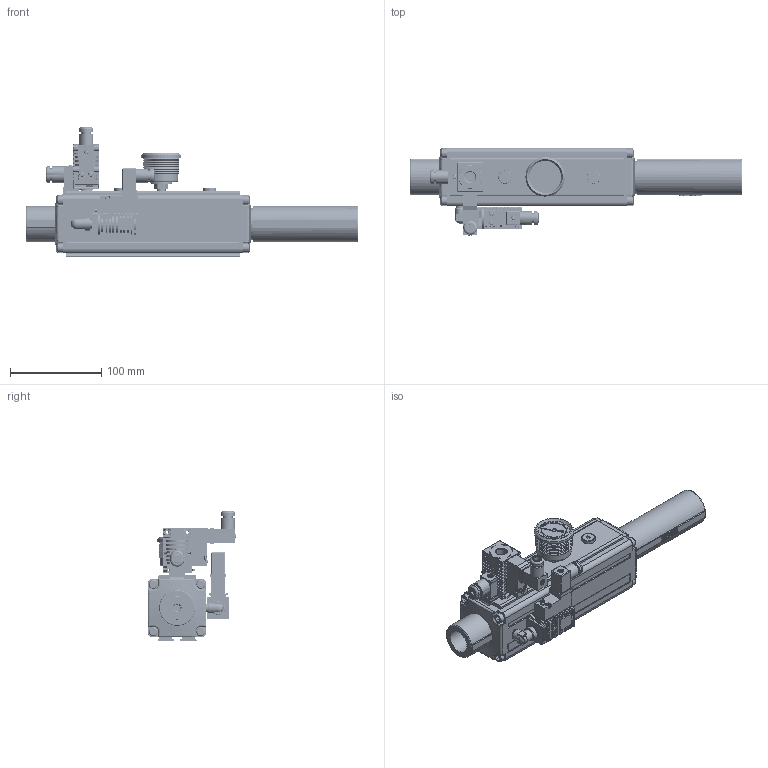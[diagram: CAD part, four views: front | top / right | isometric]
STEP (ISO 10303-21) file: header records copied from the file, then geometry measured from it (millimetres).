
FILE_DESCRIPTION( ( 'Unknown' ), '1' );
FILE_NAME( 'C:/Documents and Settings/Administrator/官帕 拳搁/PM 犁荐沥/PM303X1A-01-A3 R3-DL.stp', 'Unknown', ( 'Unknown' ), ( 'Unknown' ), 'PSStep 10.0', 'Unknown', ' ' );
FILE_SCHEMA( ( 'AUTOMOTIVE_DESIGN { 1 0 10303 214 1 1 1 1 }' ) );
Length unit declared in the file: millimetre
Products named in the file (7): Assem1; 1_0_40; VTS-01_48; VMS14_DIN_PT14_10; MS18 DIN; Vacuum Gauge_0; Elbow_18_double
Bounding box: 363.6 x 96.6 x 142.13 mm (x, y, z)
Volume: 1386230.3 mm3; surface area: 544792.2 mm2
Topology: 12 solids, 142 shells, 5730 faces, 14942 edges, 9714 vertices
Faces by surface type: plane 3508, cylinder 1620, cone 282, torus 174, bspline 106, extrusion 30, sphere 6, revolution 4
Full cylindrical faces by diameter (mm): 0.518 x2, 1 x16, 1.158 x2, 1.2 x4, 1.4 x4, 2.2 x4, 2.5 x12, 2.8 x2, 3 x16, 3.2 x4, 3.4 x18, 4 x4, 4.134 x16, 4.2 x8, 4.9 x2, 5 x4, 5.1 x2, 5.2 x8, 5.5 x4, 5.6 x2, 6 x18, 6.35 x2, 6.5 x16, 6.535 x4, 7 x10, 7.2 x4, 8 x4, 8.1 x2, 8.566 x12, 8.7 x4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
Entity records: 113244 total; most frequent: CARTESIAN_POINT 21931, DIRECTION 13983, ORIENTED_EDGE 13784, EDGE_CURVE 6892, VERTEX_POINT 4673, VECTOR 4665, AXIS2_PLACEMENT_3D 4658, LINE 4650
